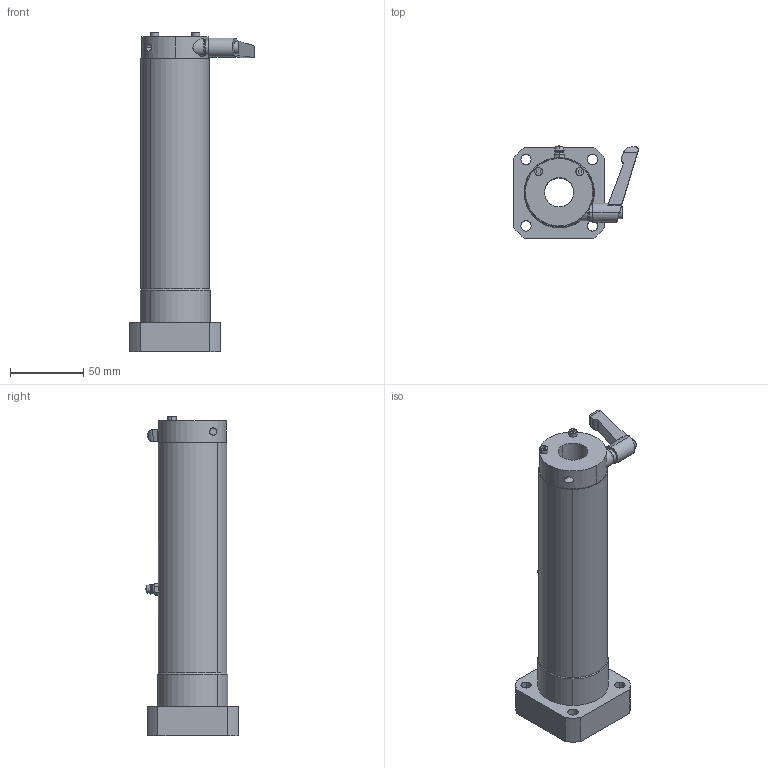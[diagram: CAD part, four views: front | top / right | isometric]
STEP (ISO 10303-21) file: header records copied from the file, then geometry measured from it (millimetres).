
FILE_DESCRIPTION (( 'STEP AP214' ), '1' );
FILE_NAME ('LFWL20B-CS.STEP', '2023-06-27T02:34:30', ( '' ), ( '' ), 'SwSTEP 2.0', 'SolidWorks 2019', '' );
FILE_SCHEMA (( 'AUTOMOTIVE_DESIGN' ));
Length unit declared in the file: millimetre
Products named in the file (3): LFWL20B-CS; LFWL20B; “ÁSCK2015SS-S3.4
Assembly tree (2 placements, depth 2):
  LFWL20B-CS
    LFWL20B
    “ÁSCK2015SS-S3.4
Bounding box: 84.9 x 62.9 x 218 mm (x, y, z)
Volume: 345645.2 mm3; surface area: 67456.7 mm2
Topology: 3 solids, 9 shells, 235 faces, 571 edges, 361 vertices
Faces by surface type: cylinder 85, plane 69, bspline 47, cone 22, torus 8, sphere 4
Entity records: 10231 total; most frequent: CARTESIAN_POINT 2290, DIRECTION 1185, ORIENTED_EDGE 1138, EDGE_CURVE 569, AXIS2_PLACEMENT_3D 489, VERTEX_POINT 360, CIRCLE 296, EDGE_LOOP 283
